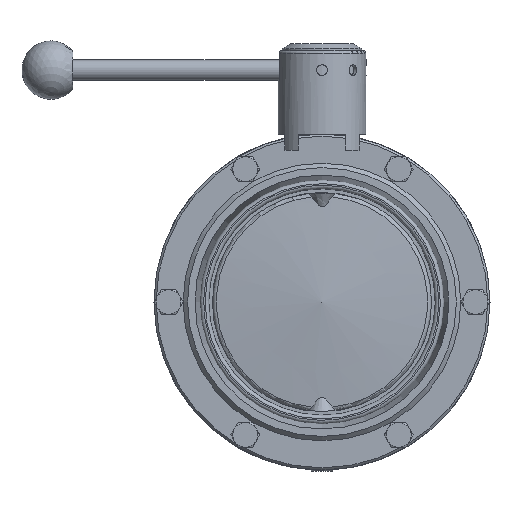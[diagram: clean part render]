
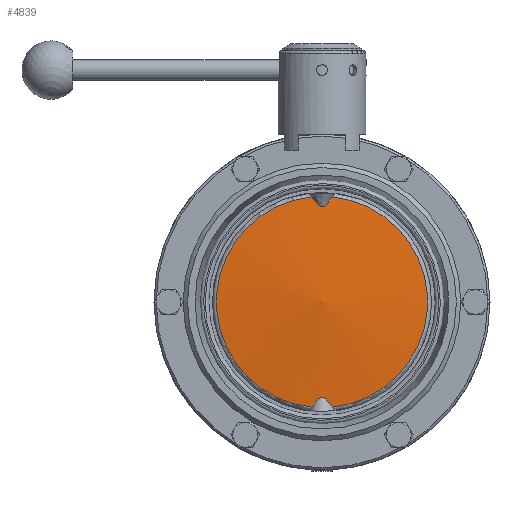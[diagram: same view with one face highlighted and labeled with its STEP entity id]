
A CAD part, left-side view. The second image highlights one B-rep face of the part: STEP entity #4839.
In plain terms, the highlighted conical face has half-angle 85.337 degrees and reference radius 36.122 mm.
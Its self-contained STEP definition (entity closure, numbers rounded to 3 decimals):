
#4630=CARTESIAN_POINT('',(-71.915,-3.108,-6.883));
#4631=VERTEX_POINT('',#4630);
#4647=CARTESIAN_POINT('',(-71.915,-3.108,6.883));
#4648=VERTEX_POINT('',#4647);
#4649=CARTESIAN_POINT('',(-71.915,-3.108,6.883));
#4650=CARTESIAN_POINT('',(-71.913,-3.108,6.881));
#4651=CARTESIAN_POINT('',(-71.911,-3.108,6.88));
#4652=CARTESIAN_POINT('',(-70.331,-3.245,5.817));
#4653=CARTESIAN_POINT('',(-68.923,-3.365,4.816));
#4654=CARTESIAN_POINT('',(-67.121,-3.519,3.264));
#4655=CARTESIAN_POINT('',(-66.591,-3.564,2.758));
#4656=CARTESIAN_POINT('',(-65.905,-3.622,1.898));
#4657=CARTESIAN_POINT('',(-65.699,-3.64,1.6));
#4658=CARTESIAN_POINT('',(-65.442,-3.662,1.081));
#4659=CARTESIAN_POINT('',(-65.367,-3.668,0.897));
#4660=CARTESIAN_POINT('',(-65.252,-3.678,0.486));
#4661=CARTESIAN_POINT('',(-65.212,-3.681,0.26));
#4662=CARTESIAN_POINT('',(-65.212,-3.681,-0.26));
#4663=CARTESIAN_POINT('',(-65.252,-3.678,-0.486));
#4664=CARTESIAN_POINT('',(-65.367,-3.668,-0.897));
#4665=CARTESIAN_POINT('',(-65.442,-3.662,-1.081));
#4666=CARTESIAN_POINT('',(-65.699,-3.64,-1.6));
#4667=CARTESIAN_POINT('',(-65.905,-3.622,-1.898));
#4668=CARTESIAN_POINT('',(-66.591,-3.564,-2.758));
#4669=CARTESIAN_POINT('',(-67.121,-3.519,-3.264));
#4670=CARTESIAN_POINT('',(-68.923,-3.365,-4.816));
#4671=CARTESIAN_POINT('',(-70.331,-3.245,-5.817));
#4672=CARTESIAN_POINT('',(-71.911,-3.108,-6.88));
#4673=CARTESIAN_POINT('',(-71.913,-3.108,-6.881));
#4674=CARTESIAN_POINT('',(-71.915,-3.108,-6.883));
#4675=B_SPLINE_CURVE_WITH_KNOTS('',3,(#4649,#4650,#4651,#4652,#4653,#4654,#4655,#4656,#4657,#4658,#4659,#4660,#4661,#4662,#4663,#4664,#4665,#4666,#4667,#4668,#4669,#4670,#4671,#4672,#4673,#4674),.UNSPECIFIED.,.F.,.U.,(4,2,2,2,2,2,2,2,2,2,2,2,4),(1.247,1.248,1.872,2.184,2.34,2.418,2.496,2.574,2.652,2.808,3.12,3.744,3.744),.UNSPECIFIED.);
#4676=EDGE_CURVE('',#4648,#4631,#4675,.T.);
#4784=CARTESIAN_POINT('',(0.0,-6.054,0.0));
#4785=DIRECTION('',(0.0,1.0,0.0));
#4786=DIRECTION('',(1.0,0.0,0.0));
#4787=AXIS2_PLACEMENT_3D('',#4784,#4785,#4786);
#4788=CONICAL_SURFACE('',#4787,36.122,85.337);
#4789=ORIENTED_EDGE('',*,*,#4676,.T.);
#4790=CARTESIAN_POINT('',(71.915,-3.108,-6.883));
#4791=VERTEX_POINT('',#4790);
#4792=CARTESIAN_POINT('',(0.0,-3.108,0.0));
#4793=DIRECTION('',(0.0,-1.0,0.0));
#4794=DIRECTION('',(1.0,0.0,0.0));
#4795=AXIS2_PLACEMENT_3D('',#4792,#4793,#4794);
#4796=CIRCLE('',#4795,72.244);
#4797=EDGE_CURVE('',#4631,#4791,#4796,.T.);
#4798=ORIENTED_EDGE('',*,*,#4797,.T.);
#4799=CARTESIAN_POINT('',(71.915,-3.108,6.883));
#4800=VERTEX_POINT('',#4799);
#4801=CARTESIAN_POINT('',(71.915,-3.108,-6.883));
#4802=CARTESIAN_POINT('',(71.913,-3.108,-6.881));
#4803=CARTESIAN_POINT('',(71.911,-3.108,-6.88));
#4804=CARTESIAN_POINT('',(70.331,-3.245,-5.817));
#4805=CARTESIAN_POINT('',(68.923,-3.365,-4.816));
#4806=CARTESIAN_POINT('',(67.121,-3.519,-3.264));
#4807=CARTESIAN_POINT('',(66.591,-3.564,-2.758));
#4808=CARTESIAN_POINT('',(65.905,-3.622,-1.898));
#4809=CARTESIAN_POINT('',(65.699,-3.64,-1.6));
#4810=CARTESIAN_POINT('',(65.442,-3.662,-1.081));
#4811=CARTESIAN_POINT('',(65.367,-3.668,-0.897));
#4812=CARTESIAN_POINT('',(65.252,-3.678,-0.486));
#4813=CARTESIAN_POINT('',(65.212,-3.681,-0.26));
#4814=CARTESIAN_POINT('',(65.212,-3.681,0.26));
#4815=CARTESIAN_POINT('',(65.252,-3.678,0.486));
#4816=CARTESIAN_POINT('',(65.367,-3.668,0.897));
#4817=CARTESIAN_POINT('',(65.442,-3.662,1.081));
#4818=CARTESIAN_POINT('',(65.699,-3.64,1.6));
#4819=CARTESIAN_POINT('',(65.905,-3.622,1.898));
#4820=CARTESIAN_POINT('',(66.591,-3.564,2.758));
#4821=CARTESIAN_POINT('',(67.121,-3.519,3.264));
#4822=CARTESIAN_POINT('',(68.923,-3.365,4.816));
#4823=CARTESIAN_POINT('',(70.331,-3.245,5.817));
#4824=CARTESIAN_POINT('',(71.911,-3.108,6.88));
#4825=CARTESIAN_POINT('',(71.913,-3.108,6.881));
#4826=CARTESIAN_POINT('',(71.915,-3.108,6.883));
#4827=B_SPLINE_CURVE_WITH_KNOTS('',3,(#4801,#4802,#4803,#4804,#4805,#4806,#4807,#4808,#4809,#4810,#4811,#4812,#4813,#4814,#4815,#4816,#4817,#4818,#4819,#4820,#4821,#4822,#4823,#4824,#4825,#4826),.UNSPECIFIED.,.F.,.U.,(4,2,2,2,2,2,2,2,2,2,2,2,4),(1.247,1.248,1.872,2.184,2.34,2.418,2.496,2.574,2.652,2.808,3.12,3.744,3.744),.UNSPECIFIED.);
#4828=EDGE_CURVE('',#4791,#4800,#4827,.T.);
#4829=ORIENTED_EDGE('',*,*,#4828,.T.);
#4830=CARTESIAN_POINT('',(0.0,-3.108,0.0));
#4831=DIRECTION('',(0.0,-1.0,0.0));
#4832=DIRECTION('',(1.0,0.0,0.0));
#4833=AXIS2_PLACEMENT_3D('',#4830,#4831,#4832);
#4834=CIRCLE('',#4833,72.244);
#4835=EDGE_CURVE('',#4800,#4648,#4834,.T.);
#4836=ORIENTED_EDGE('',*,*,#4835,.T.);
#4837=EDGE_LOOP('',(#4789,#4798,#4829,#4836));
#4838=FACE_OUTER_BOUND('',#4837,.T.);
#4839=ADVANCED_FACE('',(#4838),#4788,.T.);
